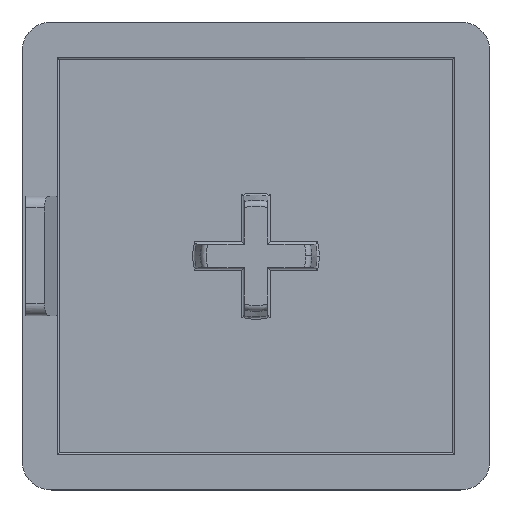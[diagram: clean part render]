
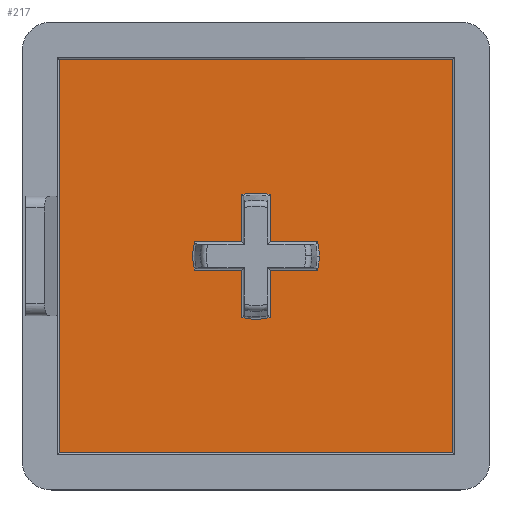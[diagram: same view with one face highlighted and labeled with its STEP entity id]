
A CAD part, top view. The second image highlights one B-rep face of the part: STEP entity #217.
In plain terms, the highlighted planar face has unit normal (0, 0, 1).
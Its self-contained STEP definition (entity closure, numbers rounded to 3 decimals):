
#78 = EDGE_CURVE ( 'NONE', #1639, #1641, #1759, .T. ) ;
#171 = CARTESIAN_POINT ( 'NONE',  ( 1.2, -17., 3. ) ) ;
#189 = CARTESIAN_POINT ( 'NONE',  ( 5.265, 1.2, 3. ) ) ;
#217 = ADVANCED_FACE ( 'NONE', ( #1811, #1814 ), #1163, .T. ) ;
#258 = VERTEX_POINT ( 'NONE', #189 ) ;
#364 = ORIENTED_EDGE ( 'NONE', *, *, #2296, .T. ) ;
#365 = EDGE_LOOP ( 'NONE', ( #374, #364, #382, #383, #384, #385, #386, #387, #388, #389, #390, #391, #392 ) ) ;
#374 = ORIENTED_EDGE ( 'NONE', *, *, #755, .T. ) ;
#377 = EDGE_LOOP ( 'NONE', ( #393, #394, #395, #396 ) ) ;
#382 = ORIENTED_EDGE ( 'NONE', *, *, #2294, .T. ) ;
#383 = ORIENTED_EDGE ( 'NONE', *, *, #2293, .T. ) ;
#384 = ORIENTED_EDGE ( 'NONE', *, *, #2291, .T. ) ;
#385 = ORIENTED_EDGE ( 'NONE', *, *, #2292, .T. ) ;
#386 = ORIENTED_EDGE ( 'NONE', *, *, #2308, .T. ) ;
#387 = ORIENTED_EDGE ( 'NONE', *, *, #2307, .T. ) ;
#388 = ORIENTED_EDGE ( 'NONE', *, *, #2306, .T. ) ;
#389 = ORIENTED_EDGE ( 'NONE', *, *, #78, .T. ) ;
#390 = ORIENTED_EDGE ( 'NONE', *, *, #2254, .T. ) ;
#391 = ORIENTED_EDGE ( 'NONE', *, *, #2255, .T. ) ;
#392 = ORIENTED_EDGE ( 'NONE', *, *, #2256, .T. ) ;
#393 = ORIENTED_EDGE ( 'NONE', *, *, #2257, .T. ) ;
#394 = ORIENTED_EDGE ( 'NONE', *, *, #2258, .T. ) ;
#395 = ORIENTED_EDGE ( 'NONE', *, *, #2259, .T. ) ;
#396 = ORIENTED_EDGE ( 'NONE', *, *, #2260, .T. ) ;
#755 = EDGE_CURVE ( 'NONE', #258, #1664, #2021, .T. ) ;
#911 = CARTESIAN_POINT ( 'NONE',  ( 0., 0., 3. ) ) ;
#912 = DIRECTION ( 'NONE',  ( 0., 0., -1. ) ) ;
#913 = DIRECTION ( 'NONE',  ( 1., 0., 0. ) ) ;
#928 = CARTESIAN_POINT ( 'NONE',  ( 16.8, -16.8, 3. ) ) ;
#930 = CARTESIAN_POINT ( 'NONE',  ( 5.265, -1.2, 3. ) ) ;
#932 = CARTESIAN_POINT ( 'NONE',  ( 1.2, -1.2, 3. ) ) ;
#934 = CARTESIAN_POINT ( 'NONE',  ( 1.2, -5.265, 3. ) ) ;
#936 = CARTESIAN_POINT ( 'NONE',  ( -1.2, -5.265, 3. ) ) ;
#937 = CARTESIAN_POINT ( 'NONE',  ( -1.2, -1.2, 3. ) ) ;
#940 = CARTESIAN_POINT ( 'NONE',  ( -5.265, -1.2, 3. ) ) ;
#941 = CARTESIAN_POINT ( 'NONE',  ( -5.265, 1.2, 3. ) ) ;
#944 = CARTESIAN_POINT ( 'NONE',  ( -1.2, 1.2, 3. ) ) ;
#946 = CARTESIAN_POINT ( 'NONE',  ( -1.2, 5.265, 3. ) ) ;
#948 = CARTESIAN_POINT ( 'NONE',  ( 1.2, 5.265, 3. ) ) ;
#949 = CARTESIAN_POINT ( 'NONE',  ( 1.2, 1.2, 3. ) ) ;
#950 = CARTESIAN_POINT ( 'NONE',  ( 16.8, 16.8, 3. ) ) ;
#952 = CARTESIAN_POINT ( 'NONE',  ( -16.8, 16.8, 3. ) ) ;
#953 = CARTESIAN_POINT ( 'NONE',  ( -16.8, -16.8, 3. ) ) ;
#969 = CARTESIAN_POINT ( 'NONE',  ( 5.4, 0., 3. ) ) ;
#1161 = DIRECTION ( 'NONE',  ( 1., 0., 0. ) ) ;
#1163 = PLANE ( 'NONE',  #1284 ) ;
#1164 = CARTESIAN_POINT ( 'NONE',  ( -17., -17., 3. ) ) ;
#1167 = DIRECTION ( 'NONE',  ( 0., 0., 1. ) ) ;
#1250 = AXIS2_PLACEMENT_3D ( 'NONE', #1330, #1331, #1332 ) ;
#1254 = AXIS2_PLACEMENT_3D ( 'NONE', #1408, #1409, #1410 ) ;
#1255 = AXIS2_PLACEMENT_3D ( 'NONE', #1418, #1419, #1420 ) ;
#1258 = AXIS2_PLACEMENT_3D ( 'NONE', #1446, #1447, #1448 ) ;
#1272 = AXIS2_PLACEMENT_3D ( 'NONE', #911, #912, #913 ) ;
#1284 = AXIS2_PLACEMENT_3D ( 'NONE', #1164, #1167, #1161 ) ;
#1328 = DIRECTION ( 'NONE',  ( 0., -1., 0. ) ) ;
#1329 = CARTESIAN_POINT ( 'NONE',  ( -17., 16.8, 3. ) ) ;
#1330 = CARTESIAN_POINT ( 'NONE',  ( 0., 0., 3. ) ) ;
#1331 = DIRECTION ( 'NONE',  ( 0., 0., -1. ) ) ;
#1332 = DIRECTION ( 'NONE',  ( 1., 0., 0. ) ) ;
#1333 = CARTESIAN_POINT ( 'NONE',  ( -17., 1.2, 3. ) ) ;
#1334 = DIRECTION ( 'NONE',  ( 1., 0., 0. ) ) ;
#1335 = CARTESIAN_POINT ( 'NONE',  ( 16.8, -17., 3. ) ) ;
#1337 = DIRECTION ( 'NONE',  ( 0., 1., 0. ) ) ;
#1338 = DIRECTION ( 'NONE',  ( -1., 0., 0. ) ) ;
#1339 = CARTESIAN_POINT ( 'NONE',  ( -16.8, -17., 3. ) ) ;
#1340 = DIRECTION ( 'NONE',  ( 0., -1., 0. ) ) ;
#1341 = CARTESIAN_POINT ( 'NONE',  ( -17., -16.8, 3. ) ) ;
#1342 = DIRECTION ( 'NONE',  ( 1., 0., 0. ) ) ;
#1399 = CARTESIAN_POINT ( 'NONE',  ( -1.2, -17., 3. ) ) ;
#1400 = DIRECTION ( 'NONE',  ( 0., 1., 0. ) ) ;
#1408 = CARTESIAN_POINT ( 'NONE',  ( 0., 0., 3. ) ) ;
#1409 = DIRECTION ( 'NONE',  ( 0., 0., -1. ) ) ;
#1410 = DIRECTION ( 'NONE',  ( 1., 0., 0. ) ) ;
#1411 = CARTESIAN_POINT ( 'NONE',  ( 1.2, -17., 3. ) ) ;
#1412 = DIRECTION ( 'NONE',  ( 0., -1., 0. ) ) ;
#1413 = CARTESIAN_POINT ( 'NONE',  ( -17., -1.2, 3. ) ) ;
#1414 = DIRECTION ( 'NONE',  ( -1., 0., 0. ) ) ;
#1418 = CARTESIAN_POINT ( 'NONE',  ( 0., 0., 3. ) ) ;
#1419 = DIRECTION ( 'NONE',  ( 0., 0., -1. ) ) ;
#1420 = DIRECTION ( 'NONE',  ( 1., 0., 0. ) ) ;
#1437 = CARTESIAN_POINT ( 'NONE',  ( -17., -1.2, 3. ) ) ;
#1438 = DIRECTION ( 'NONE',  ( -1., 0., 0. ) ) ;
#1442 = CARTESIAN_POINT ( 'NONE',  ( -17., 1.2, 3. ) ) ;
#1443 = DIRECTION ( 'NONE',  ( 1., 0., 0. ) ) ;
#1446 = CARTESIAN_POINT ( 'NONE',  ( 0., 0., 3. ) ) ;
#1447 = DIRECTION ( 'NONE',  ( 0., 0., -1. ) ) ;
#1448 = DIRECTION ( 'NONE',  ( 1., 0., 0. ) ) ;
#1621 = VERTEX_POINT ( 'NONE', #928 ) ;
#1623 = VERTEX_POINT ( 'NONE', #930 ) ;
#1625 = VERTEX_POINT ( 'NONE', #932 ) ;
#1628 = VERTEX_POINT ( 'NONE', #934 ) ;
#1631 = VERTEX_POINT ( 'NONE', #936 ) ;
#1632 = VERTEX_POINT ( 'NONE', #937 ) ;
#1635 = VERTEX_POINT ( 'NONE', #940 ) ;
#1636 = VERTEX_POINT ( 'NONE', #941 ) ;
#1639 = VERTEX_POINT ( 'NONE', #944 ) ;
#1641 = VERTEX_POINT ( 'NONE', #946 ) ;
#1643 = VERTEX_POINT ( 'NONE', #948 ) ;
#1644 = VERTEX_POINT ( 'NONE', #949 ) ;
#1645 = VERTEX_POINT ( 'NONE', #950 ) ;
#1647 = VERTEX_POINT ( 'NONE', #952 ) ;
#1648 = VERTEX_POINT ( 'NONE', #953 ) ;
#1664 = VERTEX_POINT ( 'NONE', #969 ) ;
#1759 = LINE ( 'NONE', #2171, #1762 ) ;
#1762 = VECTOR ( 'NONE', #2170, 1000. ) ;
#1811 = FACE_BOUND ( 'NONE', #365, .T. ) ;
#1814 = FACE_OUTER_BOUND ( 'NONE', #377, .T. ) ;
#2021 = CIRCLE ( 'NONE', #1272, 5.4 ) ;
#2022 = LINE ( 'NONE', #1335, #2032 ) ;
#2025 = VECTOR ( 'NONE', #1334, 1000. ) ;
#2027 = VECTOR ( 'NONE', #1328, 1000. ) ;
#2028 = LINE ( 'NONE', #171, #2027 ) ;
#2029 = LINE ( 'NONE', #1333, #2025 ) ;
#2030 = CIRCLE ( 'NONE', #1250, 5.4 ) ;
#2031 = LINE ( 'NONE', #1339, #2036 ) ;
#2032 = VECTOR ( 'NONE', #1337, 1000. ) ;
#2033 = LINE ( 'NONE', #1329, #2034 ) ;
#2034 = VECTOR ( 'NONE', #1338, 1000. ) ;
#2035 = LINE ( 'NONE', #1341, #2038 ) ;
#2036 = VECTOR ( 'NONE', #1340, 1000. ) ;
#2038 = VECTOR ( 'NONE', #1342, 1000. ) ;
#2094 = CIRCLE ( 'NONE', #1254, 5.4 ) ;
#2096 = LINE ( 'NONE', #1399, #2098 ) ;
#2097 = LINE ( 'NONE', #1411, #2100 ) ;
#2098 = VECTOR ( 'NONE', #1400, 1000. ) ;
#2099 = LINE ( 'NONE', #1413, #2102 ) ;
#2100 = VECTOR ( 'NONE', #1412, 1000. ) ;
#2102 = VECTOR ( 'NONE', #1414, 1000. ) ;
#2103 = CIRCLE ( 'NONE', #1255, 5.4 ) ;
#2117 = LINE ( 'NONE', #1442, #2120 ) ;
#2119 = CIRCLE ( 'NONE', #1258, 5.4 ) ;
#2120 = VECTOR ( 'NONE', #1443, 1000. ) ;
#2121 = LINE ( 'NONE', #1437, #2123 ) ;
#2123 = VECTOR ( 'NONE', #1438, 1000. ) ;
#2170 = DIRECTION ( 'NONE',  ( 0., 1., 0. ) ) ;
#2171 = CARTESIAN_POINT ( 'NONE',  ( -1.2, -17., 3. ) ) ;
#2254 = EDGE_CURVE ( 'NONE', #1641, #1643, #2030, .T. ) ;
#2255 = EDGE_CURVE ( 'NONE', #1643, #1644, #2028, .T. ) ;
#2256 = EDGE_CURVE ( 'NONE', #1644, #258, #2029, .T. ) ;
#2257 = EDGE_CURVE ( 'NONE', #1621, #1645, #2022, .T. ) ;
#2258 = EDGE_CURVE ( 'NONE', #1645, #1647, #2033, .T. ) ;
#2259 = EDGE_CURVE ( 'NONE', #1647, #1648, #2031, .T. ) ;
#2260 = EDGE_CURVE ( 'NONE', #1648, #1621, #2035, .T. ) ;
#2291 = EDGE_CURVE ( 'NONE', #1628, #1631, #2094, .T. ) ;
#2292 = EDGE_CURVE ( 'NONE', #1631, #1632, #2096, .T. ) ;
#2293 = EDGE_CURVE ( 'NONE', #1625, #1628, #2097, .T. ) ;
#2294 = EDGE_CURVE ( 'NONE', #1623, #1625, #2099, .T. ) ;
#2296 = EDGE_CURVE ( 'NONE', #1664, #1623, #2103, .T. ) ;
#2306 = EDGE_CURVE ( 'NONE', #1636, #1639, #2117, .T. ) ;
#2307 = EDGE_CURVE ( 'NONE', #1635, #1636, #2119, .T. ) ;
#2308 = EDGE_CURVE ( 'NONE', #1632, #1635, #2121, .T. ) ;
